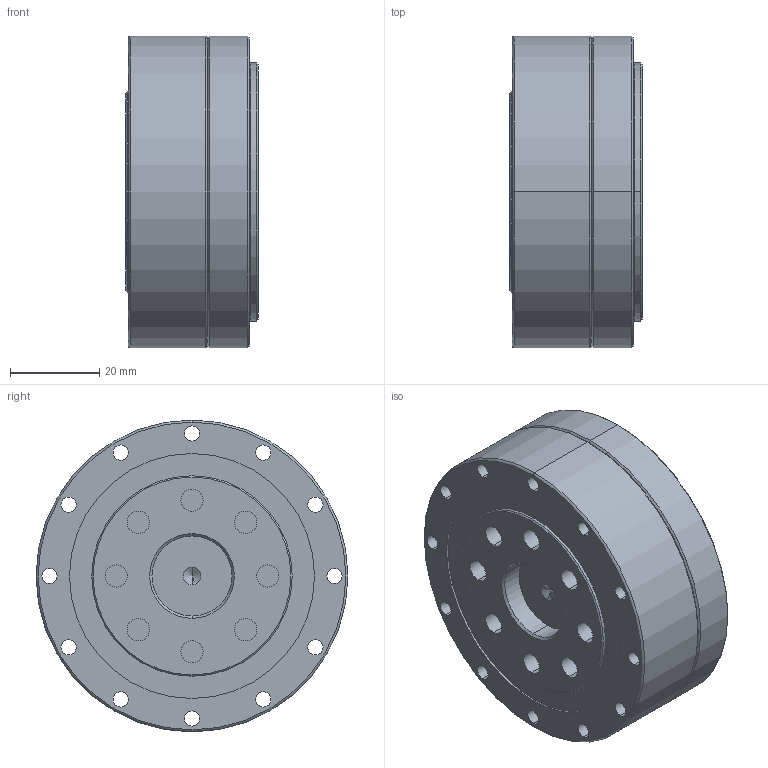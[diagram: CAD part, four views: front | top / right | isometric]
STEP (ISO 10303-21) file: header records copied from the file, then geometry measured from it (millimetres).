
FILE_DESCRIPTION (( 'STEP AP203' ), '1' );
FILE_NAME ('BCD-20-XXX-U-¢ñ.STEP', '2019-01-15T02:41:11', ( 'User' ), ( 'China' ), 'SwSTEP 2.0', 'SolidWorks 2015', '' );
FILE_SCHEMA (( 'CONFIG_CONTROL_DESIGN' ));
Length unit declared in the file: millimetre
Products named in the file (1): BCD-20-XXX-U-ｉ
Bounding box: 29.7 x 70 x 70 mm (x, y, z)
Surface area: 29212.3 mm2 (no closed solid volume)
Topology: 0 solids, 52 shells, 330 faces, 956 edges, 633 vertices
Faces by surface type: cylinder 124, plane 74, cone 66, sphere 44, torus 22
Entity records: 10024 total; most frequent: DIRECTION 1930, CARTESIAN_POINT 1718, ORIENTED_EDGE 1390, EDGE_CURVE 820, AXIS2_PLACEMENT_3D 779, VERTEX_POINT 567, CIRCLE 448, EDGE_LOOP 418
